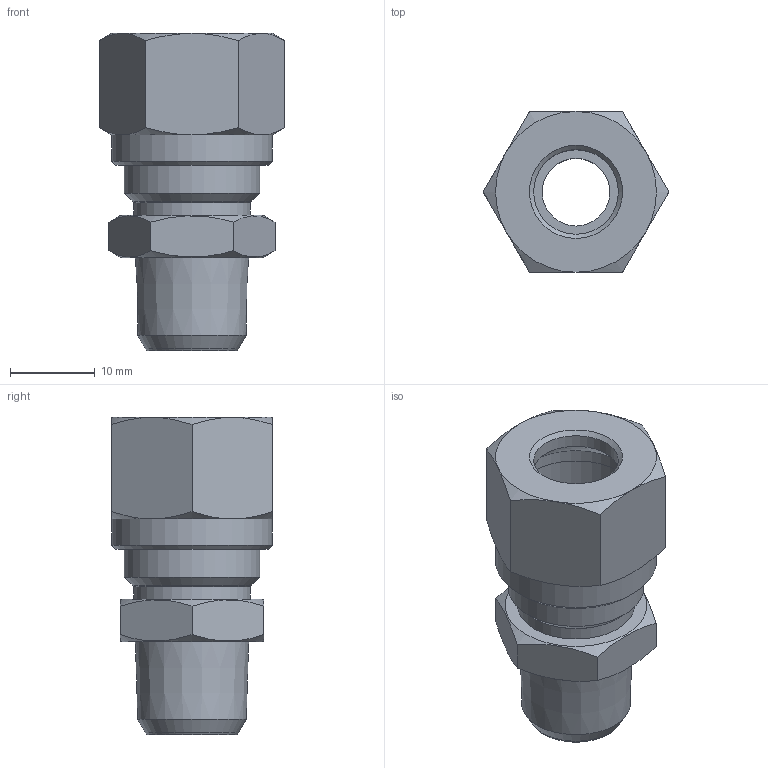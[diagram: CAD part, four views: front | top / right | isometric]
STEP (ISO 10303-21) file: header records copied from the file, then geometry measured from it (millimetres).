
FILE_DESCRIPTION(('Bauteilbeschreibung','HiCAD-Model','HiCAD-STEP-TRANSLATION','Bauteilbeschreibung'),'2;1');
FILE_NAME('B:/ABGLEICH/ZEICHNUNGEN/STEP FÜR INTERNET/STEP/201/94807_201_10_1-4.STP','2011-11-09T16:09:10+00:00',('Konstrukteur'),('Konstrukteur Firma GmbH'),' HiCAD neXt 2008, Step 3.1.1401.2J ','HiCAD neXt 2008','confidential');
FILE_SCHEMA(('AUTOMOTIVE_DESIGN { 1 2 10303 214 0 1 1 1 }'));
Length unit declared in the file: millimetre
Products named in the file (8): A4807_201_10_1_4; A4807; A48070; R 1_4; DIN 13_M16X1_5; A6804; A68040; DIN0130M16X105
Assembly tree (7 placements, depth 3):
  A4807_201_10_1_4
    A4807
    A48070
      R 1_4
      DIN 13_M16X1_5
    A6804
    A68040
      DIN0130M16X105
Bounding box: 21.94 x 19 x 37.5 mm (x, y, z)
Volume: 5545.4 mm3; surface area: 6986.4 mm2
Topology: 5 solids, 5 shells, 64 faces, 141 edges, 87 vertices
Faces by surface type: cone 30, plane 22, cylinder 12
Full cylindrical faces by diameter (mm): 8 x1, 10 x2, 13.8 x1, 14.16 x4, 16 x3, 19 x1
Entity records: 2163 total; most frequent: CARTESIAN_POINT 322, DIRECTION 268, ORIENTED_EDGE 196, AXIS2_PLACEMENT_3D 128, EDGE_LOOP 104, COLOUR_RGB 103, PRESENTATION_STYLE_ASSIGNMENT 103, CURVE_STYLE 98
